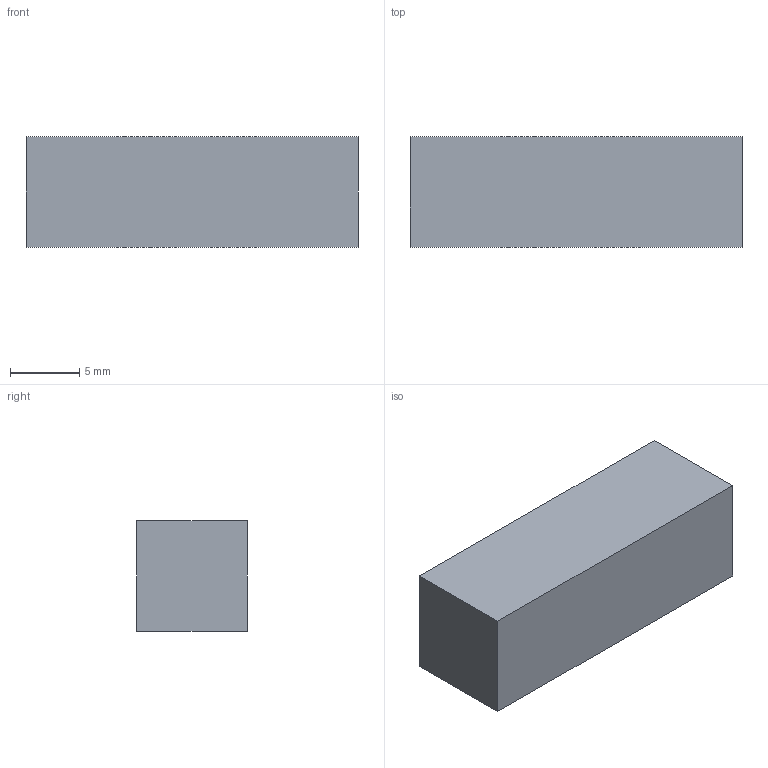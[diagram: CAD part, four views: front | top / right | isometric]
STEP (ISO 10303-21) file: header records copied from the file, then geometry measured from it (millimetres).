
FILE_DESCRIPTION(('Open CASCADE Model'),'2;1');
FILE_NAME('Open CASCADE Shape Model','2026-10-04T02:31:45',('Author'),( 'Open CASCADE'),'Open CASCADE STEP processor 8.0','Open CASCADE 8.0' ,'Unknown');
FILE_SCHEMA(('AUTOMOTIVE_DESIGN { 1 0 10303 214 1 1 1 1 }'));
Length unit declared in the file: millimetre
Products named in the file (1): Open CASCADE STEP translator 8.0 387
Bounding box: 24 x 8 x 8 mm (x, y, z)
Volume: 1536 mm3; surface area: 896 mm2
Topology: 1 solids, 1 shells, 6 faces, 12 edges, 8 vertices
Faces by surface type: plane 6
Entity records: 322 total; most frequent: CARTESIAN_POINT 51, DIRECTION 50, LINE 36, VECTOR 36, ORIENTED_EDGE 24, PCURVE 24, DEFINITIONAL_REPRESENTATION 24, EDGE_CURVE 12
